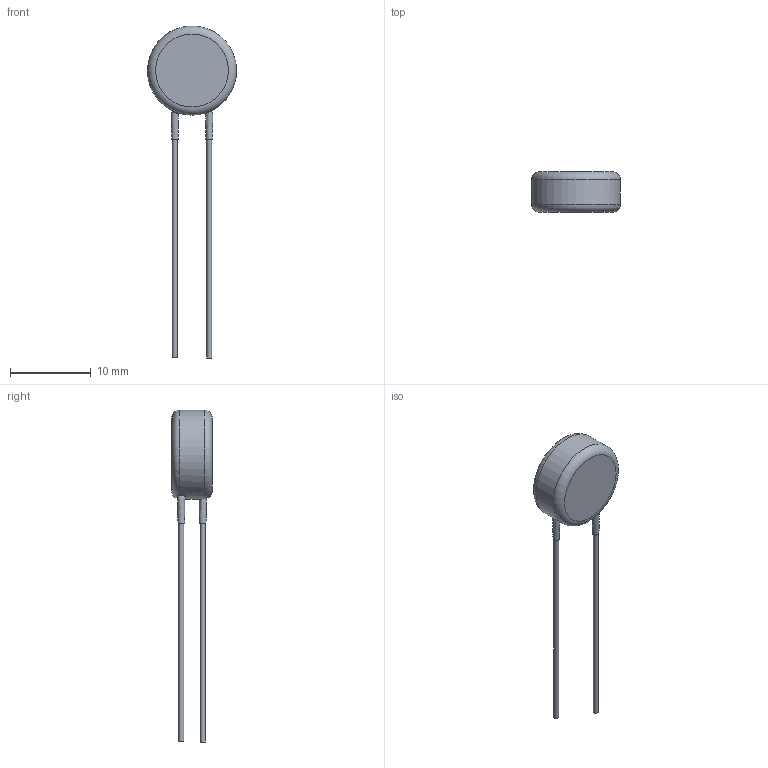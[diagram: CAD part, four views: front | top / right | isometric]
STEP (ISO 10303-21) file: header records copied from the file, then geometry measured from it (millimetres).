
FILE_DESCRIPTION(/* description */ (''),/* implementation_level */ '2;1');
FILE_NAME(/* name */ 'I:\Marketing\M6t1\3D-Models\Zchng-Werk-3\Upload for homepage\BCC neu\AY2 Straight\Step\AY2332#41Y5US63L5.stp',/* time_stamp */ '2023-07-13T14:03:23+02:00',/* author */ ('truediger'),/* organization */ (''),/* preprocessor_version */ 'ST-DEVELOPER v18',/* originating_system */ 'Autodesk Inventor 2020',/* authorisation */ '');
FILE_SCHEMA (('AUTOMOTIVE_DESIGN { 1 0 10303 214 3 1 1 }'));
Length unit declared in the file: millimetre
Products named in the file (1): Bauteil2
Bounding box: 11 x 5 x 41 mm (x, y, z)
Volume: 480.1 mm3; surface area: 451.8 mm2
Topology: 1 solids, 1 shells, 19 faces, 51 edges, 36 vertices
Faces by surface type: bspline 8, plane 6, cylinder 3, torus 2
Full cylindrical faces by diameter (mm): 0.6 x2, 11 x1
Entity records: 1642 total; most frequent: CARTESIAN_POINT 1141, ORIENTED_EDGE 102, DIRECTION 75, EDGE_CURVE 51, VERTEX_POINT 36, AXIS2_PLACEMENT_3D 36, B_SPLINE_CURVE_WITH_KNOTS 24, CIRCLE 24
